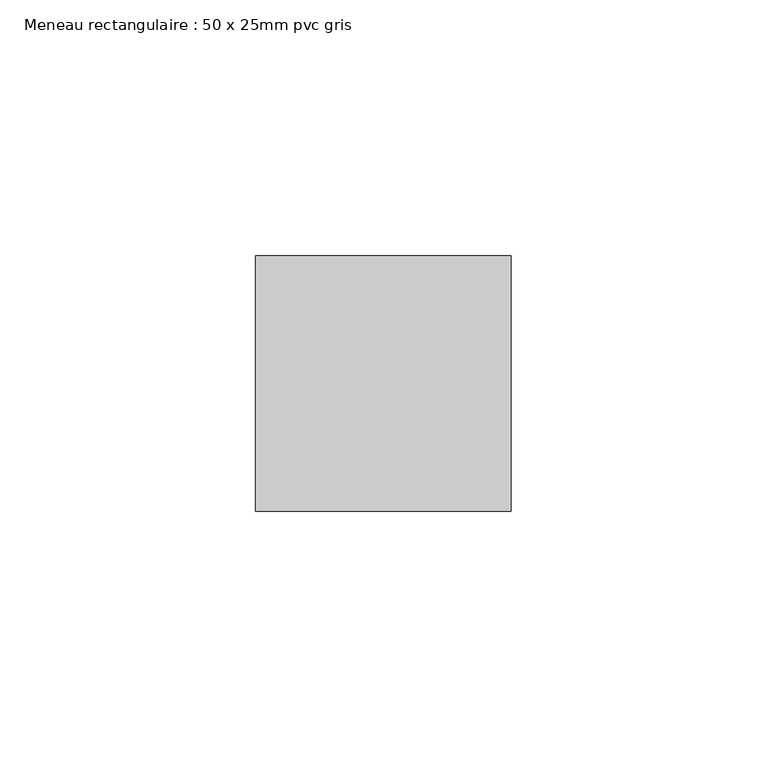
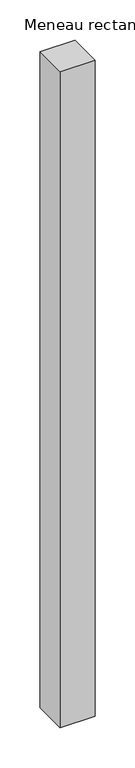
"""IFC4 building model written with IfcOpenShell, lengths in millimetres: member geometry, Meneau rectangulaire : 50 x 25mm pvc gris."""

from ifc_helpers import new_model, si_unit, frame, origin, place, context, project, spatial, polyline, outline, extrude, source, transform, mapped, element, save


def meneau_rectangulaire_50_x_25mm_pvc_gris_4ed5064a(model_context):
    return source(origin(), model_context, "Body", "SweptSolid", [
        extrude(outline(polyline([(0.0, 0.0), (0.0, -50.0), (-50.0, -50.0), (-50.0, 0.0), (0.0, 0.0)])), frame((0.0, 0.0, -996.290296), z_axis=(0.0, 0.0, 1.0), x_axis=(1.0, 0.0, 0.0)), (0.0, 0.0, 1.0), 996.290296),
    ])


if __name__ == "__main__":
    model = new_model("IFC4")
    model_context = context("Model", 3, world=origin())
    ifc_project = project(units=[si_unit("LENGTHUNIT", "METRE", prefix="MILLI")], contexts=[model_context])
    site = spatial("IfcSite", under=ifc_project)
    building = spatial("IfcBuilding", under=site)
    placement = place(None, origin())
    meneau_rectangulaire_50_x_25mm_pvc_gris_shape = meneau_rectangulaire_50_x_25mm_pvc_gris_4ed5064a(model_context)
    element("IfcMember", 1, ObjectType="Meneau rectangulaire : 50 x 25mm pvc gris", at=placement, inside=building, context=model_context, shape_type="MappedRepresentation", body=[
        mapped(meneau_rectangulaire_50_x_25mm_pvc_gris_shape, transform((0.0, 0.0, 0.0), x_axis=(1.0, 0.0, 0.0), y_axis=(0.0, 1.0, 0.0), z_axis=(0.0, 0.0, 1.0))),
    ])
    save(model, "model.ifc")
